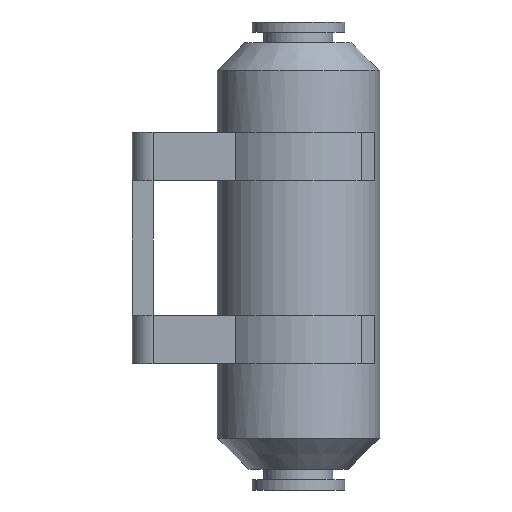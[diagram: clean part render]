
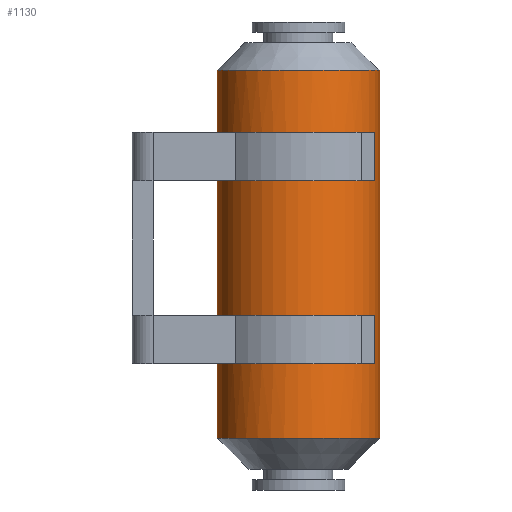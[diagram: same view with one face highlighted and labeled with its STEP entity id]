
A CAD part, front view. The second image highlights one B-rep face of the part: STEP entity #1130.
In plain terms, the highlighted cylindrical face has radius 11.75 mm (diameter 23.5 mm), a full revolution.
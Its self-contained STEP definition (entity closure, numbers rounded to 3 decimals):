
#24=FACE_BOUND('',#179,.T.);
#25=FACE_BOUND('',#180,.T.);
#114=FACE_OUTER_BOUND('',#178,.T.);
#178=EDGE_LOOP('',(#996,#997,#998,#999,#1000,#1001,#1002,#1003,#1004,#1005,
#1006,#1007,#1008,#1009,#1010,#1011,#1012,#1013,#1014,#1015,#1016,#1017));
#179=EDGE_LOOP('',(#1018,#1019,#1020,#1021));
#180=EDGE_LOOP('',(#1022,#1023,#1024,#1025));
#223=LINE('',#1727,#324);
#228=LINE('',#1736,#329);
#248=LINE('',#1784,#349);
#249=LINE('',#1787,#350);
#253=LINE('',#1794,#354);
#254=LINE('',#1797,#355);
#266=LINE('',#1825,#367);
#274=LINE('',#1845,#375);
#287=LINE('',#1917,#388);
#288=LINE('',#1918,#389);
#289=LINE('',#1919,#390);
#324=VECTOR('',#1367,10.);
#329=VECTOR('',#1374,10.);
#349=VECTOR('',#1424,10.);
#350=VECTOR('',#1427,10.);
#354=VECTOR('',#1433,10.);
#355=VECTOR('',#1436,10.);
#367=VECTOR('',#1464,10.);
#375=VECTOR('',#1486,10.);
#388=VECTOR('',#1573,11.75);
#389=VECTOR('',#1574,11.75);
#390=VECTOR('',#1575,11.75);
#399=CIRCLE('',#1168,11.75);
#402=CIRCLE('',#1171,11.75);
#403=CIRCLE('',#1173,11.75);
#406=CIRCLE('',#1176,11.75);
#407=CIRCLE('',#1178,11.75);
#412=CIRCLE('',#1185,11.75);
#419=CIRCLE('',#1215,11.75);
#420=CIRCLE('',#1216,11.75);
#421=CIRCLE('',#1217,11.75);
#424=CIRCLE('',#1227,11.75);
#425=CIRCLE('',#1228,11.75);
#426=CIRCLE('',#1229,11.75);
#441=CIRCLE('',#1253,11.75);
#442=CIRCLE('',#1254,11.75);
#443=CIRCLE('',#1256,11.75);
#444=CIRCLE('',#1257,11.75);
#467=VERTEX_POINT('',#1649);
#468=VERTEX_POINT('',#1650);
#474=VERTEX_POINT('',#1663);
#475=VERTEX_POINT('',#1667);
#476=VERTEX_POINT('',#1668);
#482=VERTEX_POINT('',#1681);
#483=VERTEX_POINT('',#1685);
#485=VERTEX_POINT('',#1688);
#499=VERTEX_POINT('',#1720);
#500=VERTEX_POINT('',#1722);
#501=VERTEX_POINT('',#1726);
#504=VERTEX_POINT('',#1734);
#517=VERTEX_POINT('',#1782);
#518=VERTEX_POINT('',#1786);
#520=VERTEX_POINT('',#1792);
#521=VERTEX_POINT('',#1796);
#529=VERTEX_POINT('',#1824);
#530=VERTEX_POINT('',#1829);
#534=VERTEX_POINT('',#1843);
#538=VERTEX_POINT('',#1864);
#553=VERTEX_POINT('',#1907);
#554=VERTEX_POINT('',#1908);
#555=VERTEX_POINT('',#1913);
#556=VERTEX_POINT('',#1914);
#581=EDGE_CURVE('',#467,#468,#399,.T.);
#589=EDGE_CURVE('',#468,#474,#402,.T.);
#590=EDGE_CURVE('',#475,#476,#403,.T.);
#598=EDGE_CURVE('',#476,#482,#406,.T.);
#600=EDGE_CURVE('',#485,#483,#407,.T.);
#617=EDGE_CURVE('',#500,#499,#412,.T.);
#619=EDGE_CURVE('',#501,#467,#223,.T.);
#624=EDGE_CURVE('',#482,#504,#228,.T.);
#648=EDGE_CURVE('',#474,#517,#248,.T.);
#649=EDGE_CURVE('',#518,#475,#249,.T.);
#653=EDGE_CURVE('',#483,#520,#253,.T.);
#654=EDGE_CURVE('',#521,#500,#254,.T.);
#668=EDGE_CURVE('',#529,#485,#266,.T.);
#671=EDGE_CURVE('',#530,#501,#419,.T.);
#672=EDGE_CURVE('',#517,#530,#420,.T.);
#674=EDGE_CURVE('',#520,#529,#421,.T.);
#680=EDGE_CURVE('',#499,#534,#274,.T.);
#689=EDGE_CURVE('',#534,#521,#424,.T.);
#691=EDGE_CURVE('',#538,#518,#425,.T.);
#692=EDGE_CURVE('',#504,#538,#426,.T.);
#710=EDGE_CURVE('',#553,#554,#441,.T.);
#711=EDGE_CURVE('',#554,#553,#442,.T.);
#713=EDGE_CURVE('',#555,#556,#443,.T.);
#714=EDGE_CURVE('',#556,#555,#444,.T.);
#715=EDGE_CURVE('',#556,#530,#287,.T.);
#716=EDGE_CURVE('',#468,#476,#288,.T.);
#717=EDGE_CURVE('',#538,#554,#289,.T.);
#996=ORIENTED_EDGE('',*,*,#713,.F.);
#997=ORIENTED_EDGE('',*,*,#714,.F.);
#998=ORIENTED_EDGE('',*,*,#715,.T.);
#999=ORIENTED_EDGE('',*,*,#671,.T.);
#1000=ORIENTED_EDGE('',*,*,#619,.T.);
#1001=ORIENTED_EDGE('',*,*,#581,.T.);
#1002=ORIENTED_EDGE('',*,*,#716,.T.);
#1003=ORIENTED_EDGE('',*,*,#598,.T.);
#1004=ORIENTED_EDGE('',*,*,#624,.T.);
#1005=ORIENTED_EDGE('',*,*,#692,.T.);
#1006=ORIENTED_EDGE('',*,*,#717,.T.);
#1007=ORIENTED_EDGE('',*,*,#711,.T.);
#1008=ORIENTED_EDGE('',*,*,#710,.T.);
#1009=ORIENTED_EDGE('',*,*,#717,.F.);
#1010=ORIENTED_EDGE('',*,*,#691,.T.);
#1011=ORIENTED_EDGE('',*,*,#649,.T.);
#1012=ORIENTED_EDGE('',*,*,#590,.T.);
#1013=ORIENTED_EDGE('',*,*,#716,.F.);
#1014=ORIENTED_EDGE('',*,*,#589,.T.);
#1015=ORIENTED_EDGE('',*,*,#648,.T.);
#1016=ORIENTED_EDGE('',*,*,#672,.T.);
#1017=ORIENTED_EDGE('',*,*,#715,.F.);
#1018=ORIENTED_EDGE('',*,*,#653,.T.);
#1019=ORIENTED_EDGE('',*,*,#674,.T.);
#1020=ORIENTED_EDGE('',*,*,#668,.T.);
#1021=ORIENTED_EDGE('',*,*,#600,.T.);
#1022=ORIENTED_EDGE('',*,*,#617,.T.);
#1023=ORIENTED_EDGE('',*,*,#680,.T.);
#1024=ORIENTED_EDGE('',*,*,#689,.T.);
#1025=ORIENTED_EDGE('',*,*,#654,.T.);
#1079=CYLINDRICAL_SURFACE('',#1255,11.75);
#1130=ADVANCED_FACE('',(#114,#24,#25),#1079,.T.);
#1168=AXIS2_PLACEMENT_3D('',#1651,#1305,#1306);
#1171=AXIS2_PLACEMENT_3D('',#1665,#1316,#1317);
#1173=AXIS2_PLACEMENT_3D('',#1669,#1320,#1321);
#1176=AXIS2_PLACEMENT_3D('',#1683,#1331,#1332);
#1178=AXIS2_PLACEMENT_3D('',#1689,#1336,#1337);
#1185=AXIS2_PLACEMENT_3D('',#1723,#1362,#1363);
#1215=AXIS2_PLACEMENT_3D('',#1830,#1469,#1470);
#1216=AXIS2_PLACEMENT_3D('',#1831,#1471,#1472);
#1217=AXIS2_PLACEMENT_3D('',#1833,#1474,#1475);
#1227=AXIS2_PLACEMENT_3D('',#1862,#1506,#1507);
#1228=AXIS2_PLACEMENT_3D('',#1865,#1509,#1510);
#1229=AXIS2_PLACEMENT_3D('',#1866,#1511,#1512);
#1253=AXIS2_PLACEMENT_3D('',#1909,#1562,#1563);
#1254=AXIS2_PLACEMENT_3D('',#1910,#1564,#1565);
#1255=AXIS2_PLACEMENT_3D('',#1912,#1567,#1568);
#1256=AXIS2_PLACEMENT_3D('',#1915,#1569,#1570);
#1257=AXIS2_PLACEMENT_3D('',#1916,#1571,#1572);
#1305=DIRECTION('center_axis',(0.,0.,1.));
#1306=DIRECTION('ref_axis',(0.803,0.596,0.));
#1316=DIRECTION('center_axis',(0.,0.,1.));
#1317=DIRECTION('ref_axis',(0.803,0.596,0.));
#1320=DIRECTION('center_axis',(0.,0.,-1.));
#1321=DIRECTION('ref_axis',(0.803,0.596,0.));
#1331=DIRECTION('center_axis',(0.,0.,-1.));
#1332=DIRECTION('ref_axis',(0.803,0.596,0.));
#1336=DIRECTION('center_axis',(0.,0.,1.));
#1337=DIRECTION('ref_axis',(-0.79,-0.613,0.));
#1362=DIRECTION('center_axis',(0.,0.,-1.));
#1363=DIRECTION('ref_axis',(-0.79,-0.613,0.));
#1367=DIRECTION('',(0.,0.,1.));
#1374=DIRECTION('',(0.,0.,1.));
#1424=DIRECTION('',(0.,0.,-1.));
#1427=DIRECTION('',(0.,0.,-1.));
#1433=DIRECTION('',(0.,0.,-1.));
#1436=DIRECTION('',(0.,0.,-1.));
#1464=DIRECTION('',(0.,0.,1.));
#1469=DIRECTION('center_axis',(0.,0.,-1.));
#1470=DIRECTION('ref_axis',(0.,1.,0.));
#1471=DIRECTION('center_axis',(0.,0.,-1.));
#1472=DIRECTION('ref_axis',(0.,1.,0.));
#1474=DIRECTION('center_axis',(0.,0.,-1.));
#1475=DIRECTION('ref_axis',(0.,1.,0.));
#1486=DIRECTION('',(0.,0.,1.));
#1506=DIRECTION('center_axis',(0.,0.,1.));
#1507=DIRECTION('ref_axis',(0.,1.,0.));
#1509=DIRECTION('center_axis',(0.,0.,1.));
#1510=DIRECTION('ref_axis',(0.,1.,0.));
#1511=DIRECTION('center_axis',(0.,0.,1.));
#1512=DIRECTION('ref_axis',(0.,1.,0.));
#1562=DIRECTION('center_axis',(0.,0.,-1.));
#1563=DIRECTION('ref_axis',(1.,0.,0.));
#1564=DIRECTION('center_axis',(0.,0.,-1.));
#1565=DIRECTION('ref_axis',(1.,0.,0.));
#1567=DIRECTION('center_axis',(0.,0.,-1.));
#1568=DIRECTION('ref_axis',(0.,1.,0.));
#1569=DIRECTION('center_axis',(0.,0.,-1.));
#1570=DIRECTION('ref_axis',(1.,0.,0.));
#1571=DIRECTION('center_axis',(0.,0.,-1.));
#1572=DIRECTION('ref_axis',(1.,0.,0.));
#1573=DIRECTION('',(0.,0.,1.));
#1574=DIRECTION('',(0.,0.,1.));
#1575=DIRECTION('',(0.,0.,1.));
#1649=CARTESIAN_POINT('',(-9.437,-7.,-9.75));
#1650=CARTESIAN_POINT('',(0.,-11.75,-9.75));
#1651=CARTESIAN_POINT('Origin',(0.,0.,-9.75));
#1663=CARTESIAN_POINT('',(9.286,-7.2,-9.75));
#1665=CARTESIAN_POINT('Origin',(0.,0.,-9.75));
#1667=CARTESIAN_POINT('',(9.286,-7.2,9.75));
#1668=CARTESIAN_POINT('',(0.,-11.75,9.75));
#1669=CARTESIAN_POINT('Origin',(0.,0.,9.75));
#1681=CARTESIAN_POINT('',(-9.437,-7.,9.75));
#1683=CARTESIAN_POINT('Origin',(0.,0.,9.75));
#1685=CARTESIAN_POINT('',(-9.437,7.,-9.75));
#1688=CARTESIAN_POINT('',(9.286,7.2,-9.75));
#1689=CARTESIAN_POINT('Origin',(0.,0.,-9.75));
#1720=CARTESIAN_POINT('',(9.286,7.2,9.75));
#1722=CARTESIAN_POINT('',(-9.437,7.,9.75));
#1723=CARTESIAN_POINT('Origin',(0.,0.,9.75));
#1726=CARTESIAN_POINT('',(-9.437,-7.,-16.75));
#1727=CARTESIAN_POINT('',(-9.437,-7.,-13.707));
#1734=CARTESIAN_POINT('',(-9.437,-7.,16.75));
#1736=CARTESIAN_POINT('',(-9.437,-7.,-13.707));
#1782=CARTESIAN_POINT('',(9.286,-7.2,-16.75));
#1784=CARTESIAN_POINT('',(9.286,-7.2,-13.707));
#1786=CARTESIAN_POINT('',(9.286,-7.2,16.75));
#1787=CARTESIAN_POINT('',(9.286,-7.2,-13.707));
#1792=CARTESIAN_POINT('',(-9.437,7.,-16.75));
#1794=CARTESIAN_POINT('',(-9.437,7.,-13.707));
#1796=CARTESIAN_POINT('',(-9.437,7.,16.75));
#1797=CARTESIAN_POINT('',(-9.437,7.,-13.707));
#1824=CARTESIAN_POINT('',(9.286,7.2,-16.75));
#1825=CARTESIAN_POINT('',(9.286,7.2,-13.707));
#1829=CARTESIAN_POINT('',(0.,-11.75,-16.75));
#1830=CARTESIAN_POINT('Origin',(0.,0.,-16.75));
#1831=CARTESIAN_POINT('Origin',(0.,0.,-16.75));
#1833=CARTESIAN_POINT('Origin',(0.,0.,-16.75));
#1843=CARTESIAN_POINT('',(9.286,7.2,16.75));
#1845=CARTESIAN_POINT('',(9.286,7.2,-13.707));
#1862=CARTESIAN_POINT('Origin',(0.,0.,16.75));
#1864=CARTESIAN_POINT('',(0.,-11.75,16.75));
#1865=CARTESIAN_POINT('Origin',(0.,0.,16.75));
#1866=CARTESIAN_POINT('Origin',(0.,0.,16.75));
#1907=CARTESIAN_POINT('',(0.,11.75,25.7));
#1908=CARTESIAN_POINT('',(0.,-11.75,25.7));
#1909=CARTESIAN_POINT('Origin',(0.,0.,25.7));
#1910=CARTESIAN_POINT('Origin',(0.,0.,25.7));
#1912=CARTESIAN_POINT('Origin',(0.,0.,-13.707));
#1913=CARTESIAN_POINT('',(0.,11.75,-27.5));
#1914=CARTESIAN_POINT('',(0.,-11.75,-27.5));
#1915=CARTESIAN_POINT('Origin',(0.,0.,-27.5));
#1916=CARTESIAN_POINT('Origin',(0.,0.,-27.5));
#1917=CARTESIAN_POINT('',(0.,-11.75,-13.707));
#1918=CARTESIAN_POINT('',(0.,-11.75,-13.707));
#1919=CARTESIAN_POINT('',(0.,-11.75,-13.707));
